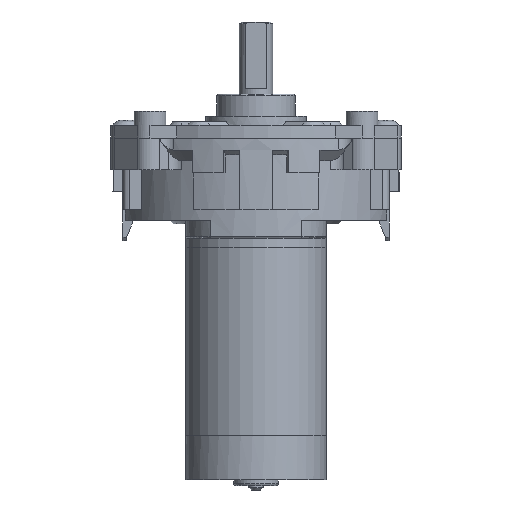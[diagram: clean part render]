
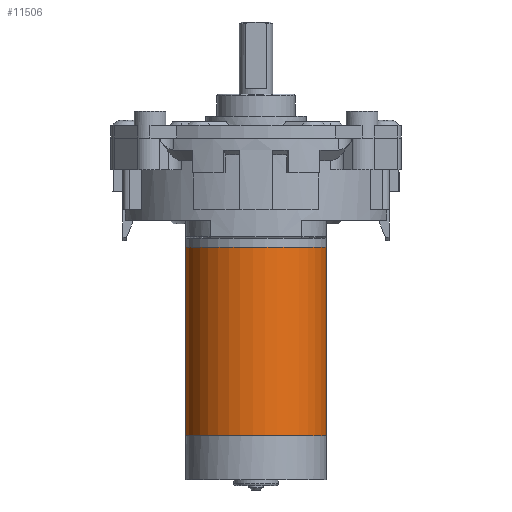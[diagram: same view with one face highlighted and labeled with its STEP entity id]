
A CAD part, front view. The second image highlights one B-rep face of the part: STEP entity #11506.
In plain terms, the highlighted cylindrical face has radius 20 mm (diameter 40 mm), a full revolution.
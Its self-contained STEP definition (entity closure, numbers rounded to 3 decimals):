
#690=FACE_BOUND('',#2466,.T.);
#906=CYLINDRICAL_SURFACE('',#12735,20.);
#1585=FACE_OUTER_BOUND('',#2465,.T.);
#2465=EDGE_LOOP('',(#10202));
#2466=EDGE_LOOP('',(#10203));
#4504=CIRCLE('',#12736,20.);
#4505=CIRCLE('',#12737,20.);
#5578=VERTEX_POINT('',#21453);
#5579=VERTEX_POINT('',#21455);
#7146=EDGE_CURVE('',#5578,#5578,#4504,.T.);
#7147=EDGE_CURVE('',#5579,#5579,#4505,.T.);
#10202=ORIENTED_EDGE('',*,*,#7146,.T.);
#10203=ORIENTED_EDGE('',*,*,#7147,.F.);
#11506=ADVANCED_FACE('',(#1585,#690),#906,.T.);
#12735=AXIS2_PLACEMENT_3D('',#21452,#15797,#15798);
#12736=AXIS2_PLACEMENT_3D('',#21454,#15799,#15800);
#12737=AXIS2_PLACEMENT_3D('',#21456,#15801,#15802);
#15797=DIRECTION('center_axis',(0.,0.,1.));
#15798=DIRECTION('ref_axis',(-1.,0.,0.));
#15799=DIRECTION('center_axis',(0.,0.,-1.));
#15800=DIRECTION('ref_axis',(-1.,0.,0.));
#15801=DIRECTION('center_axis',(0.,0.,-1.));
#15802=DIRECTION('ref_axis',(-1.,0.,0.));
#21452=CARTESIAN_POINT('Origin',(0.,0.,0.));
#21453=CARTESIAN_POINT('',(20.,0.,53.5));
#21454=CARTESIAN_POINT('Origin',(0.,0.,53.5));
#21455=CARTESIAN_POINT('',(20.,0.,0.));
#21456=CARTESIAN_POINT('Origin',(0.,0.,0.));
